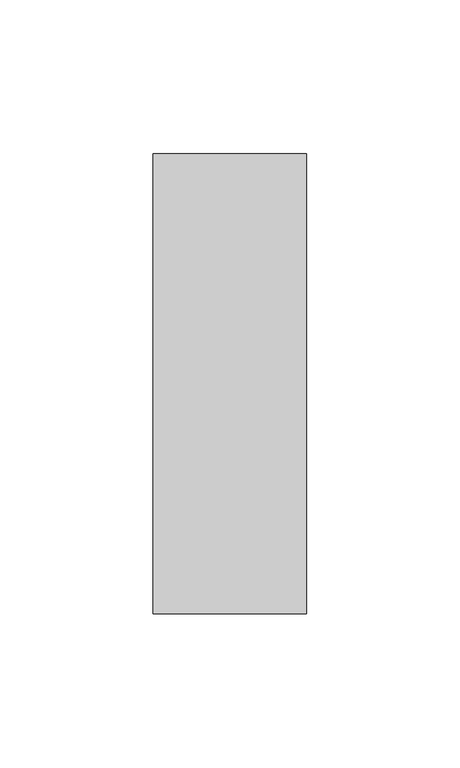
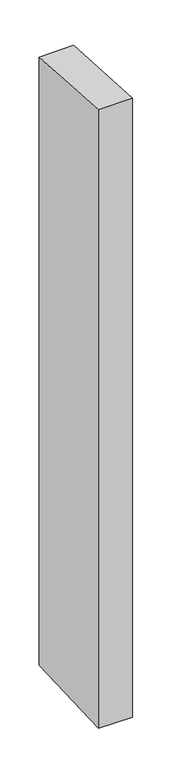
"""IFC4 building model written with IfcOpenShell, lengths in millimetres: member geometry, Прямоугольный импост : 50 x 150 мм."""

import ifcopenshell
import ifcopenshell.guid

model = None  # the IFC model being written
_history = None  # IfcOwnerHistory: only IFC2X3 demands one
_inside = {}  # id of a spatial element -> (the spatial element, [elements in it])
_under = {}  # id of a project, library or spatial element -> (it, [spatial elements below it])
_declared = {}  # id of a project -> (the project, [libraries it declares])
_typed = {}  # id of a type object -> (the type object, [elements of that type])
_made_of = {}  # id of a material, layer set ... -> (it, [elements and type objects made of it])


def new_model(schema):
    """Start an empty IFC model of exactly this schema.

    Asked for "IFC4X3", IfcOpenShell would pick the latest addendum, in which some entities
    have other attributes; the version numbers below select the first issue.
    IFC2X3 requires an IfcOwnerHistory on every rooted entity: one is made here for all.
    """
    global model, _history
    if schema == "IFC4X3":
        model = ifcopenshell.file(schema_version=(4, 3, 0, 0))
    else:
        model = ifcopenshell.file(schema=schema)
    _inside.clear()
    _under.clear()
    _declared.clear()
    _typed.clear()
    _made_of.clear()
    _history = None
    if model.schema == "IFC2X3":
        org = make("IfcOrganization", Name="unknown")
        user = make(
            "IfcPersonAndOrganization",
            ThePerson=make("IfcPerson", FamilyName="unknown"),
            TheOrganization=org,
        )
        app = make(
            "IfcApplication",
            ApplicationDeveloper=org,
            Version="unknown",
            ApplicationFullName="unknown",
            ApplicationIdentifier="unknown",
        )
        _history = make(
            "IfcOwnerHistory",
            OwningUser=user,
            OwningApplication=app,
            ChangeAction="ADDED",
            CreationDate=0,
        )
    return model


def make(cls, **values):
    """One entity of the class cls with the attributes given. An attribute that is None is left unset."""
    return model.create_entity(
        cls, **{name: value for name, value in values.items() if value is not None}
    )


def rooted(cls, **values):
    """An entity with a GlobalId (a new one), such as an element, a storey or a relation."""
    return make(cls, GlobalId=ifcopenshell.guid.new(), OwnerHistory=_history, **values)


def si_unit(unit_type, name, prefix=None):
    """IfcSIUnit, for example si_unit("LENGTHUNIT", "METRE", prefix="MILLI")."""
    return make("IfcSIUnit", UnitType=unit_type, Prefix=prefix, Name=name)


def assignment(units):
    """IfcUnitAssignment: the units of a project."""
    return None if units is None else make("IfcUnitAssignment", Units=units)


def point(xyz):
    """IfcCartesianPoint."""
    return None if xyz is None else make("IfcCartesianPoint", Coordinates=xyz)


def direction(xyz):
    """IfcDirection."""
    return None if xyz is None else make("IfcDirection", DirectionRatios=xyz)


def frame(location, z_axis=None, x_axis=None):
    """IfcAxis2Placement3D, a coordinate frame: its origin and axes. An axis left out is left unset."""
    return make(
        "IfcAxis2Placement3D",
        Location=point(location),
        Axis=direction(z_axis),
        RefDirection=direction(x_axis),
    )


def origin():
    """The frame at (0, 0, 0) with its axes left unset."""
    return frame((0.0, 0.0, 0.0))


def place(relative_to, where):
    """IfcLocalPlacement: puts the frame where relative to a parent placement (None: the world)."""
    return make(
        "IfcLocalPlacement", PlacementRelTo=relative_to, RelativePlacement=where
    )


def context(
    kind, dimensions, precision=None, world=None, true_north=None, identifier=None
):
    """IfcGeometricRepresentationContext, for example the 3D "Model" context."""
    return make(
        "IfcGeometricRepresentationContext",
        ContextIdentifier=identifier,
        ContextType=kind,
        CoordinateSpaceDimension=dimensions,
        Precision=precision,
        WorldCoordinateSystem=world,
        TrueNorth=true_north,
    )


def project(units=None, contexts=None):
    """IfcProject with its units and contexts."""
    return rooted(
        "IfcProject",
        Name="project",
        RepresentationContexts=contexts,
        UnitsInContext=assignment(units),
    )


def spatial(cls, under=None, at=None, **own):
    """A site, building, storey or space (cls), placed at a placement, below another one or the project."""
    s = rooted(cls, ObjectPlacement=at, **own)
    if under is not None:
        _under.setdefault(under.id(), (under, []))[1].append(s)
    return s


def faces_of(points, faces, orient=None, outer=None):
    """IfcFace entities. A face is a list of loops; a loop is a list of indices into points, from 0.

    orient and outer hold one flag for each loop. By default every Orientation is true, the
    first loop of a face is its IfcFaceOuterBound and the others are IfcFaceBound.
    """
    made = []
    for i, loops in enumerate(faces):
        bounds = []
        for j, loop in enumerate(loops):
            is_outer = j == 0 if outer is None else outer[i][j]
            bounds.append(
                make(
                    "IfcFaceOuterBound" if is_outer else "IfcFaceBound",
                    Bound=make("IfcPolyLoop", Polygon=[points[k] for k in loop]),
                    Orientation=True if orient is None else orient[i][j],
                )
            )
        made.append(make("IfcFace", Bounds=bounds))
    return made


def faceted_brep(points, faces, orient=None, outer=None, voids=None):
    """IfcFacetedBrep: a solid bounded by flat faces; with voids (closed shells), ...WithVoids."""
    shared = [point(p) for p in points]
    hull = make("IfcClosedShell", CfsFaces=faces_of(shared, faces, orient, outer))
    if voids is None:
        return make("IfcFacetedBrep", Outer=hull)
    return make(
        "IfcFacetedBrepWithVoids",
        Outer=hull,
        Voids=[
            make(cls, CfsFaces=faces_of(shared, fs, o, b)) for cls, fs, o, b in voids
        ],
    )


def shape(context_of_items, identifier, shape_type, items):
    """IfcShapeRepresentation: the items that make up one representation, for example the "Body"."""
    return make(
        "IfcShapeRepresentation",
        ContextOfItems=context_of_items,
        RepresentationIdentifier=identifier,
        RepresentationType=shape_type,
        Items=items,
    )


def source(mapping_origin, context_of_items, identifier, shape_type, items):
    """IfcRepresentationMap: a shape defined once, which mapped items show again and again."""
    return make(
        "IfcRepresentationMap",
        MappingOrigin=mapping_origin,
        MappedRepresentation=shape(context_of_items, identifier, shape_type, items),
    )


def transform(
    local_origin,
    x_axis=None,
    y_axis=None,
    z_axis=None,
    scale=None,
    scale2=None,
    scale3=None,
    uniform=True,
):
    """IfcCartesianTransformationOperator3D, or its non-uniform kind. x_axis, y_axis, z_axis: its Axis1, 2, 3."""
    if uniform:
        return make(
            "IfcCartesianTransformationOperator3D",
            Axis1=direction(x_axis),
            Axis2=direction(y_axis),
            LocalOrigin=point(local_origin),
            Scale=scale,
            Axis3=direction(z_axis),
        )
    return make(
        "IfcCartesianTransformationOperator3DnonUniform",
        Axis1=direction(x_axis),
        Axis2=direction(y_axis),
        LocalOrigin=point(local_origin),
        Scale=scale,
        Axis3=direction(z_axis),
        Scale2=scale2,
        Scale3=scale3,
    )


def mapped(mapping_source, mapping_target):
    """IfcMappedItem: shows the shape of a source again, moved by a transform."""
    return make(
        "IfcMappedItem", MappingSource=mapping_source, MappingTarget=mapping_target
    )


def made_of(thing, what):
    """Note that an element or type object is made of a material, layer set ...; save() writes the relation."""
    if what is not None:
        _made_of.setdefault(what.id(), (what, []))[1].append(thing)
    return thing


def element(
    cls,
    number,
    at=None,
    inside=None,
    cuts=None,
    type_object=None,
    material=None,
    context=None,
    identifier="Body",
    shape_type=None,
    held_by="IfcProductDefinitionShape",
    body=None,
    shapes=None,
    **own,
):
    """One element of the class cls, such as IfcWall. Its Tag is "e" and its number.

    at: its placement. inside: the storey or other place that contains it. cuts: it is an
    opening in that element (IfcRelVoidsElement). A single representation is given by context,
    identifier, shape_type and body (its items); several are given by shapes. held_by: the class
    of the entity that holds the representations. save() writes the other relations.
    """
    e = rooted(cls, Tag="e%d" % number, ObjectPlacement=at, **own)
    if body is not None:
        shapes = [shape(context, identifier, shape_type, body)]
    if shapes is not None:
        e.Representation = make(held_by, Representations=shapes)
    if inside is not None:
        _inside.setdefault(inside.id(), (inside, []))[1].append(e)
    if cuts is not None:
        rooted(
            "IfcRelVoidsElement", RelatingBuildingElement=cuts, RelatedOpeningElement=e
        )
    if type_object is not None:
        _typed.setdefault(type_object.id(), (type_object, []))[1].append(e)
    return made_of(e, material)


def aggregate(whole, parts):
    """IfcRelAggregates: a whole, such as a stair, and the parts it consists of."""
    return rooted("IfcRelAggregates", RelatingObject=whole, RelatedObjects=parts)


def save(model, path):
    """Write the relations noted so far, then the file.

    IfcRelAggregates (storeys below a building ...), IfcRelContainedInSpatialStructure (elements
    in a storey), IfcRelDefinesByType, IfcRelAssociatesMaterial and IfcRelDeclares: one each for
    every whole, place, type object, material and project.
    """
    for whole, parts in _under.values():
        aggregate(whole, parts)
    for where, things in _inside.values():
        rooted(
            "IfcRelContainedInSpatialStructure",
            RelatedElements=things,
            RelatingStructure=where,
        )
    for kind, things in _typed.values():
        rooted("IfcRelDefinesByType", RelatedObjects=things, RelatingType=kind)
    for what, things in _made_of.values():
        rooted("IfcRelAssociatesMaterial", RelatedObjects=things, RelatingMaterial=what)
    for by, libraries in _declared.values():
        rooted("IfcRelDeclares", RelatingContext=by, RelatedDefinitions=libraries)
    model.write(path)


def member_0ceddba6(model_context):
    return source(origin(), model_context, "Body", "Brep", [
        faceted_brep([(-25.0, 75.0, -5.0533864), (25.0, 75.0, -4.2807114), (25.0, 75.0, -947.5038686), (-25.0, 75.0, -946.6230801), (-25.0, -75.0, 4.2807114), (-25.0, -75.0, -952.8584866), (25.0, -75.0, 5.0533864), (25.0, -75.0, -953.7392751)], [[[0, 1, 2, 3]], [[4, 0, 3, 5]], [[6, 4, 5, 7]], [[1, 6, 7, 2]], [[1, 0, 4, 6]], [[2, 7, 5, 3]]]),
    ])


if __name__ == "__main__":
    model = new_model("IFC4")
    model_context = context("Model", 3, world=origin())
    ifc_project = project(units=[si_unit("LENGTHUNIT", "METRE", prefix="MILLI")], contexts=[model_context])
    site = spatial("IfcSite", under=ifc_project)
    building = spatial("IfcBuilding", under=site)
    placement = place(None, origin())
    member_shape = member_0ceddba6(model_context)
    element("IfcMember", 1, ObjectType="Прямоугольный импост : 50 x 150 мм", at=placement, inside=building, context=model_context, shape_type="MappedRepresentation", body=[
        mapped(member_shape, transform((0.0, 0.0, 0.0), x_axis=(1.0, 0.0, 0.0), y_axis=(0.0, 1.0, 0.0), z_axis=(0.0, 0.0, 1.0))),
    ])
    save(model, "model.ifc")
